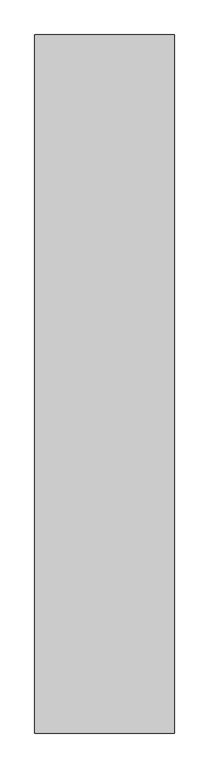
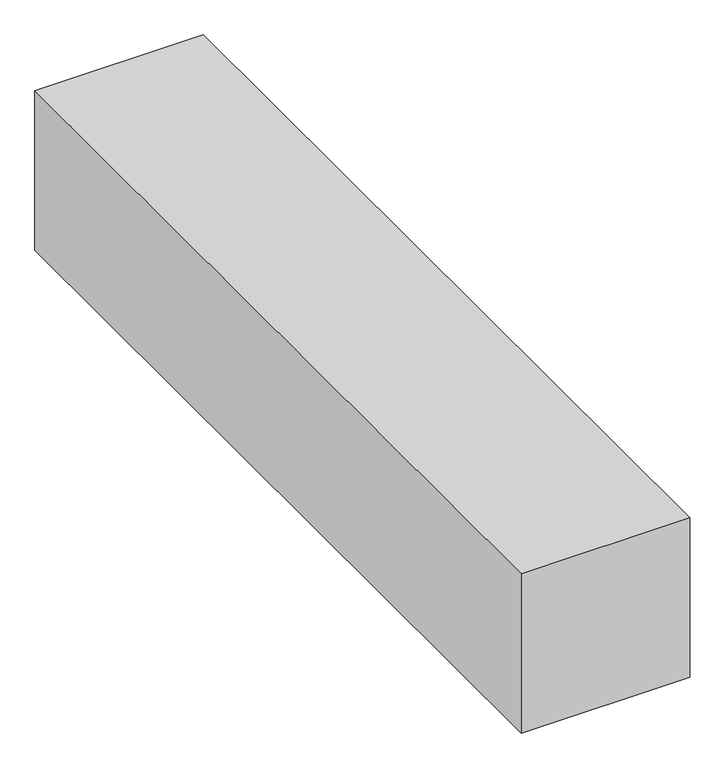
"""IFC4 building model written with IfcOpenShell, lengths in millimetres: proxy geometry, Dynamo自动放置和旋转构件 : Dynamo自动放置和旋转构件."""

import ifcopenshell
import ifcopenshell.guid

model = None  # the IFC model being written
_history = None  # IfcOwnerHistory: only IFC2X3 demands one
_inside = {}  # id of a spatial element -> (the spatial element, [elements in it])
_under = {}  # id of a project, library or spatial element -> (it, [spatial elements below it])
_declared = {}  # id of a project -> (the project, [libraries it declares])
_typed = {}  # id of a type object -> (the type object, [elements of that type])
_made_of = {}  # id of a material, layer set ... -> (it, [elements and type objects made of it])


def new_model(schema):
    """Start an empty IFC model of exactly this schema.

    Asked for "IFC4X3", IfcOpenShell would pick the latest addendum, in which some entities
    have other attributes; the version numbers below select the first issue.
    IFC2X3 requires an IfcOwnerHistory on every rooted entity: one is made here for all.
    """
    global model, _history
    if schema == "IFC4X3":
        model = ifcopenshell.file(schema_version=(4, 3, 0, 0))
    else:
        model = ifcopenshell.file(schema=schema)
    _inside.clear()
    _under.clear()
    _declared.clear()
    _typed.clear()
    _made_of.clear()
    _history = None
    if model.schema == "IFC2X3":
        org = make("IfcOrganization", Name="unknown")
        user = make(
            "IfcPersonAndOrganization",
            ThePerson=make("IfcPerson", FamilyName="unknown"),
            TheOrganization=org,
        )
        app = make(
            "IfcApplication",
            ApplicationDeveloper=org,
            Version="unknown",
            ApplicationFullName="unknown",
            ApplicationIdentifier="unknown",
        )
        _history = make(
            "IfcOwnerHistory",
            OwningUser=user,
            OwningApplication=app,
            ChangeAction="ADDED",
            CreationDate=0,
        )
    return model


def make(cls, **values):
    """One entity of the class cls with the attributes given. An attribute that is None is left unset."""
    return model.create_entity(
        cls, **{name: value for name, value in values.items() if value is not None}
    )


def rooted(cls, **values):
    """An entity with a GlobalId (a new one), such as an element, a storey or a relation."""
    return make(cls, GlobalId=ifcopenshell.guid.new(), OwnerHistory=_history, **values)


def si_unit(unit_type, name, prefix=None):
    """IfcSIUnit, for example si_unit("LENGTHUNIT", "METRE", prefix="MILLI")."""
    return make("IfcSIUnit", UnitType=unit_type, Prefix=prefix, Name=name)


def assignment(units):
    """IfcUnitAssignment: the units of a project."""
    return None if units is None else make("IfcUnitAssignment", Units=units)


def point(xyz):
    """IfcCartesianPoint."""
    return None if xyz is None else make("IfcCartesianPoint", Coordinates=xyz)


def direction(xyz):
    """IfcDirection."""
    return None if xyz is None else make("IfcDirection", DirectionRatios=xyz)


def frame(location, z_axis=None, x_axis=None):
    """IfcAxis2Placement3D, a coordinate frame: its origin and axes. An axis left out is left unset."""
    return make(
        "IfcAxis2Placement3D",
        Location=point(location),
        Axis=direction(z_axis),
        RefDirection=direction(x_axis),
    )


def origin():
    """The frame at (0, 0, 0) with its axes left unset."""
    return frame((0.0, 0.0, 0.0))


def place(relative_to, where):
    """IfcLocalPlacement: puts the frame where relative to a parent placement (None: the world)."""
    return make(
        "IfcLocalPlacement", PlacementRelTo=relative_to, RelativePlacement=where
    )


def context(
    kind, dimensions, precision=None, world=None, true_north=None, identifier=None
):
    """IfcGeometricRepresentationContext, for example the 3D "Model" context."""
    return make(
        "IfcGeometricRepresentationContext",
        ContextIdentifier=identifier,
        ContextType=kind,
        CoordinateSpaceDimension=dimensions,
        Precision=precision,
        WorldCoordinateSystem=world,
        TrueNorth=true_north,
    )


def project(units=None, contexts=None):
    """IfcProject with its units and contexts."""
    return rooted(
        "IfcProject",
        Name="project",
        RepresentationContexts=contexts,
        UnitsInContext=assignment(units),
    )


def spatial(cls, under=None, at=None, **own):
    """A site, building, storey or space (cls), placed at a placement, below another one or the project."""
    s = rooted(cls, ObjectPlacement=at, **own)
    if under is not None:
        _under.setdefault(under.id(), (under, []))[1].append(s)
    return s


def polyline(points):
    """IfcPolyline through the points."""
    return make("IfcPolyline", Points=[point(p) for p in points])


def outline(outer, holes=None, kind="AREA"):
    """IfcArbitraryClosedProfileDef: a profile drawn as a closed curve; with holes, ...WithVoids."""
    if holes is None:
        return make("IfcArbitraryClosedProfileDef", ProfileType=kind, OuterCurve=outer)
    return make(
        "IfcArbitraryProfileDefWithVoids",
        ProfileType=kind,
        OuterCurve=outer,
        InnerCurves=holes,
    )


def extrude(swept, where, along, depth):
    """IfcExtrudedAreaSolid: the profile swept, set in the frame where, extruded along a direction by depth."""
    return make(
        "IfcExtrudedAreaSolid",
        SweptArea=swept,
        Position=where,
        ExtrudedDirection=direction(along),
        Depth=depth,
    )


def shape(context_of_items, identifier, shape_type, items):
    """IfcShapeRepresentation: the items that make up one representation, for example the "Body"."""
    return make(
        "IfcShapeRepresentation",
        ContextOfItems=context_of_items,
        RepresentationIdentifier=identifier,
        RepresentationType=shape_type,
        Items=items,
    )


def source(mapping_origin, context_of_items, identifier, shape_type, items):
    """IfcRepresentationMap: a shape defined once, which mapped items show again and again."""
    return make(
        "IfcRepresentationMap",
        MappingOrigin=mapping_origin,
        MappedRepresentation=shape(context_of_items, identifier, shape_type, items),
    )


def transform(
    local_origin,
    x_axis=None,
    y_axis=None,
    z_axis=None,
    scale=None,
    scale2=None,
    scale3=None,
    uniform=True,
):
    """IfcCartesianTransformationOperator3D, or its non-uniform kind. x_axis, y_axis, z_axis: its Axis1, 2, 3."""
    if uniform:
        return make(
            "IfcCartesianTransformationOperator3D",
            Axis1=direction(x_axis),
            Axis2=direction(y_axis),
            LocalOrigin=point(local_origin),
            Scale=scale,
            Axis3=direction(z_axis),
        )
    return make(
        "IfcCartesianTransformationOperator3DnonUniform",
        Axis1=direction(x_axis),
        Axis2=direction(y_axis),
        LocalOrigin=point(local_origin),
        Scale=scale,
        Axis3=direction(z_axis),
        Scale2=scale2,
        Scale3=scale3,
    )


def mapped(mapping_source, mapping_target):
    """IfcMappedItem: shows the shape of a source again, moved by a transform."""
    return make(
        "IfcMappedItem", MappingSource=mapping_source, MappingTarget=mapping_target
    )


def made_of(thing, what):
    """Note that an element or type object is made of a material, layer set ...; save() writes the relation."""
    if what is not None:
        _made_of.setdefault(what.id(), (what, []))[1].append(thing)
    return thing


def element(
    cls,
    number,
    at=None,
    inside=None,
    cuts=None,
    type_object=None,
    material=None,
    context=None,
    identifier="Body",
    shape_type=None,
    held_by="IfcProductDefinitionShape",
    body=None,
    shapes=None,
    **own,
):
    """One element of the class cls, such as IfcWall. Its Tag is "e" and its number.

    at: its placement. inside: the storey or other place that contains it. cuts: it is an
    opening in that element (IfcRelVoidsElement). A single representation is given by context,
    identifier, shape_type and body (its items); several are given by shapes. held_by: the class
    of the entity that holds the representations. save() writes the other relations.
    """
    e = rooted(cls, Tag="e%d" % number, ObjectPlacement=at, **own)
    if body is not None:
        shapes = [shape(context, identifier, shape_type, body)]
    if shapes is not None:
        e.Representation = make(held_by, Representations=shapes)
    if inside is not None:
        _inside.setdefault(inside.id(), (inside, []))[1].append(e)
    if cuts is not None:
        rooted(
            "IfcRelVoidsElement", RelatingBuildingElement=cuts, RelatedOpeningElement=e
        )
    if type_object is not None:
        _typed.setdefault(type_object.id(), (type_object, []))[1].append(e)
    return made_of(e, material)


def aggregate(whole, parts):
    """IfcRelAggregates: a whole, such as a stair, and the parts it consists of."""
    return rooted("IfcRelAggregates", RelatingObject=whole, RelatedObjects=parts)


def save(model, path):
    """Write the relations noted so far, then the file.

    IfcRelAggregates (storeys below a building ...), IfcRelContainedInSpatialStructure (elements
    in a storey), IfcRelDefinesByType, IfcRelAssociatesMaterial and IfcRelDeclares: one each for
    every whole, place, type object, material and project.
    """
    for whole, parts in _under.values():
        aggregate(whole, parts)
    for where, things in _inside.values():
        rooted(
            "IfcRelContainedInSpatialStructure",
            RelatedElements=things,
            RelatingStructure=where,
        )
    for kind, things in _typed.values():
        rooted("IfcRelDefinesByType", RelatedObjects=things, RelatingType=kind)
    for what, things in _made_of.values():
        rooted("IfcRelAssociatesMaterial", RelatedObjects=things, RelatingMaterial=what)
    for by, libraries in _declared.values():
        rooted("IfcRelDeclares", RelatingContext=by, RelatedDefinitions=libraries)
    model.write(path)


def generic_models_9758f732(model_context):
    return source(origin(), model_context, "Body", "SweptSolid", [
        extrude(outline(polyline([(500.0, 2500.0), (500.0, -2500.0), (-500.0, -2500.0), (-500.0, 2500.0), (500.0, 2500.0)])), frame((0.0, 0.0, -1000.0), z_axis=(0.0, 0.0, 1.0), x_axis=(1.0, 0.0, 0.0)), (0.0, 0.0, 1.0), 1000.0),
    ])


if __name__ == "__main__":
    model = new_model("IFC4")
    model_context = context("Model", 3, world=origin())
    ifc_project = project(units=[si_unit("LENGTHUNIT", "METRE", prefix="MILLI")], contexts=[model_context])
    site = spatial("IfcSite", under=ifc_project)
    building = spatial("IfcBuilding", under=site)
    placement = place(None, origin())
    generic_models_shape = generic_models_9758f732(model_context)
    element("IfcBuildingElementProxy", 1, Name="Dynamo自动放置和旋转构件 : Dynamo自动放置和旋转构件", ObjectType="Dynamo自动放置和旋转构件 : Dynamo自动放置和旋转构件", at=placement, inside=building, context=model_context, shape_type="MappedRepresentation", body=[
        mapped(generic_models_shape, transform((0.0, 0.0, 0.0), x_axis=(1.0, 0.0, 0.0), y_axis=(0.0, 1.0, 0.0), z_axis=(0.0, 0.0, 1.0))),
    ])
    save(model, "model.ifc")
